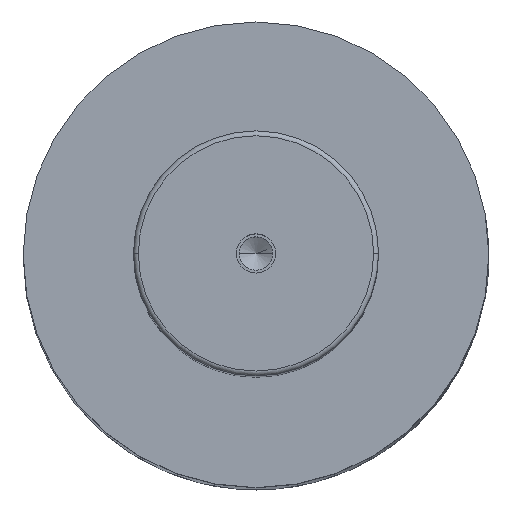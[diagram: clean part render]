
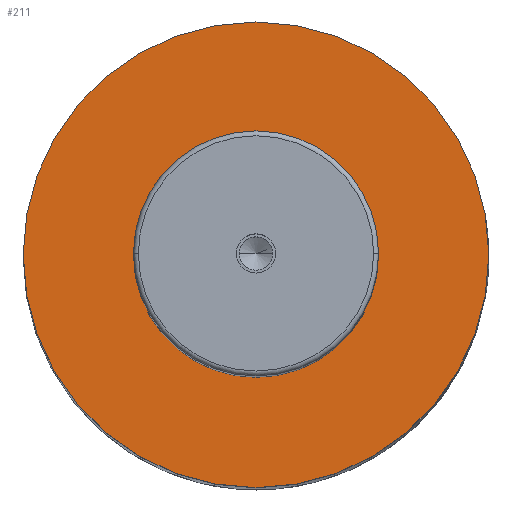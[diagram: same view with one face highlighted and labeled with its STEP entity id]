
A CAD part, top view. The second image highlights one B-rep face of the part: STEP entity #211.
In plain terms, the highlighted planar face has unit normal (0, 0, 1).
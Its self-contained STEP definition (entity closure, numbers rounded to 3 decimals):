
#109=PLANE('',#1266);
#138=FACE_BOUND('',#359,.T.);
#139=FACE_BOUND('',#360,.T.);
#211=ADVANCED_FACE('',(#138,#139),#109,.T.);
#359=EDGE_LOOP('',(#571,#572));
#360=EDGE_LOOP('',(#573,#574));
#451=CIRCLE('',#1260,25.);
#452=CIRCLE('',#1262,25.);
#453=CIRCLE('',#1264,47.5);
#454=CIRCLE('',#1265,47.5);
#571=ORIENTED_EDGE('',*,*,#970,.F.);
#572=ORIENTED_EDGE('',*,*,#971,.F.);
#573=ORIENTED_EDGE('',*,*,#969,.T.);
#574=ORIENTED_EDGE('',*,*,#967,.T.);
#856=VERTEX_POINT('',#1837);
#857=VERTEX_POINT('',#1839);
#858=VERTEX_POINT('',#1845);
#859=VERTEX_POINT('',#1846);
#967=EDGE_CURVE('',#857,#856,#451,.T.);
#969=EDGE_CURVE('',#856,#857,#452,.T.);
#970=EDGE_CURVE('',#858,#859,#453,.T.);
#971=EDGE_CURVE('',#859,#858,#454,.T.);
#1260=AXIS2_PLACEMENT_3D('',#1838,#1456,#1457);
#1262=AXIS2_PLACEMENT_3D('',#1842,#1461,#1462);
#1264=AXIS2_PLACEMENT_3D('',#1844,#1465,#1466);
#1265=AXIS2_PLACEMENT_3D('',#1847,#1467,#1468);
#1266=AXIS2_PLACEMENT_3D('',#1848,#1469,#1470);
#1456=DIRECTION('',(0.,0.,-1.));
#1457=DIRECTION('',(0.,1.,0.));
#1461=DIRECTION('',(0.,0.,-1.));
#1462=DIRECTION('',(0.,-1.,0.));
#1465=DIRECTION('',(0.,0.,-1.));
#1466=DIRECTION('',(0.,1.,0.));
#1467=DIRECTION('',(0.,0.,-1.));
#1468=DIRECTION('',(0.,-1.,0.));
#1469=DIRECTION('',(0.,0.,1.));
#1470=DIRECTION('',(0.,-1.,0.));
#1837=CARTESIAN_POINT('',(-25.,0.,277.));
#1838=CARTESIAN_POINT('',(0.,0.,277.));
#1839=CARTESIAN_POINT('',(25.,0.,277.));
#1842=CARTESIAN_POINT('',(0.,0.,277.));
#1844=CARTESIAN_POINT('',(0.,0.,277.));
#1845=CARTESIAN_POINT('',(47.5,0.,277.));
#1846=CARTESIAN_POINT('',(-47.5,0.,277.));
#1847=CARTESIAN_POINT('',(0.,0.,277.));
#1848=CARTESIAN_POINT('',(0.,0.,277.));
